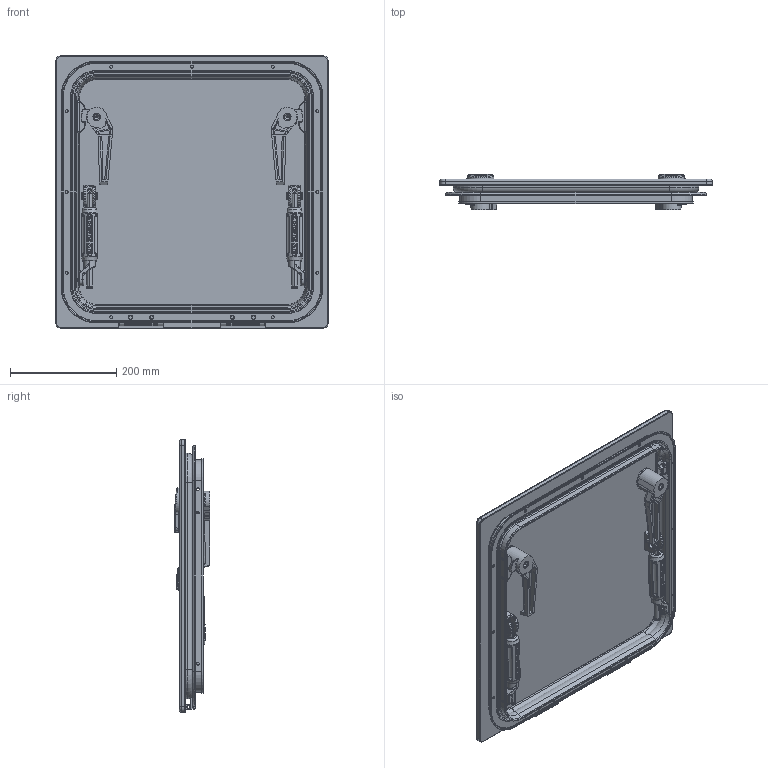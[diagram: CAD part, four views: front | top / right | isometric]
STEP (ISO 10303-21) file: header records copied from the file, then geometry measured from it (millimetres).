
FILE_DESCRIPTION((''),'2;1');
FILE_NAME('39944X1Y_ASM','2009-10-23T',('AWickes'),(''),'PRO/ENGINEER BY PARAMETRIC TECHNOLOGY CORPORATION, 2007030','PRO/ENGINEER BY PARAMETRIC TECHNOLOGY CORPORATION, 2007030','');
FILE_SCHEMA(('CONFIG_CONTROL_DESIGN'));
Length unit declared in the file: millimetre
Products named in the file (24): 35002014; 35001733; 35001706; 35000998Z; 38002014Y_ASM; 35002013X; 35001959Y; 35001707Z; 35001709Z; 15801372Z; 35000999Z; 35001016Z; RH_LARGE_HANDLE_ASM; 39944012_SEAL; 15801371Z; 35001015Z; LH_LARGE_HANDLE_ASM; 38002013X_ASM; 35001703; 35001704; 35001043; 38001768Z_AF4_ASM; 38001768Z_AF5_ASM; 39944X1Y_ASM
Assembly tree (33 placements, depth 4):
  39944X1Y_ASM
    38002014Y_ASM
      35002014
      35001733  x2
      35001706  x2
      35000998Z  x2
    38002013X_ASM
      35002013X
      35001959Y  x2
      35001707Z  x2
      35001709Z  x2
      RH_LARGE_HANDLE_ASM
        15801372Z
        35000999Z
        35001016Z
      39944012_SEAL
      LH_LARGE_HANDLE_ASM
        15801371Z
        35000999Z
        35001015Z
    38001768Z_AF4_ASM
      35001703
      35001704
      35001043
    38001768Z_AF5_ASM
      35001703
      35001704
      35001043
Bounding box: 512 x 67.24 x 512 mm (x, y, z)
Volume: 4138225.5 mm3; surface area: 1141821 mm2
Topology: 31 solids, 32 shells, 3244 faces, 8084 edges, 4982 vertices
Faces by surface type: cylinder 1110, plane 1012, bspline 550, torus 270, cone 206, sphere 82, extrusion 14
Entity records: 87991 total; most frequent: CARTESIAN_POINT 39305, ORIENTED_EDGE 10482, DIRECTION 9483, EDGE_CURVE 5241, AXIS2_PLACEMENT_3D 3620, VERTEX_POINT 3222, EDGE_LOOP 2307, VECTOR 2243
